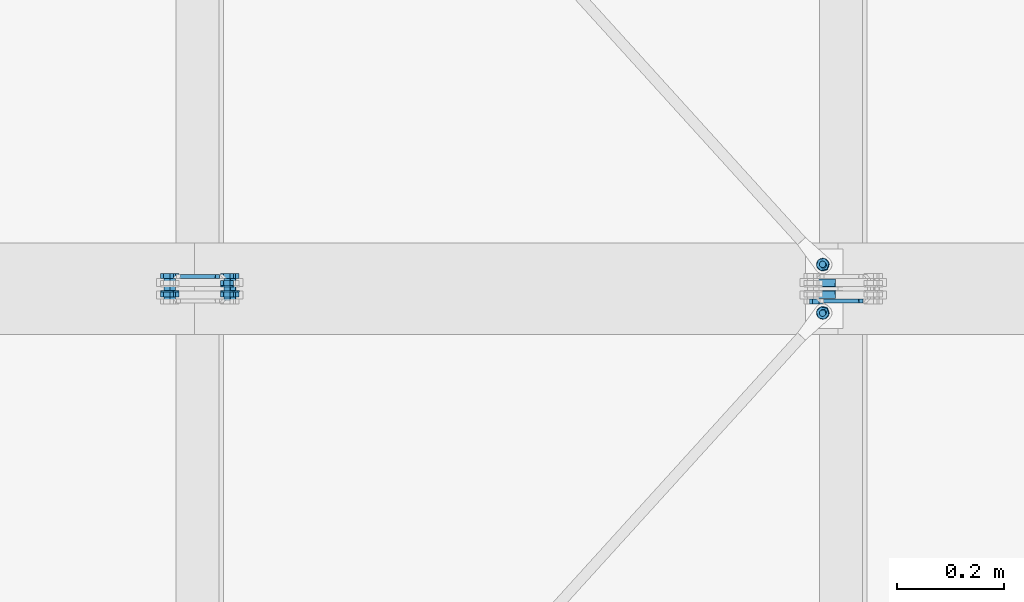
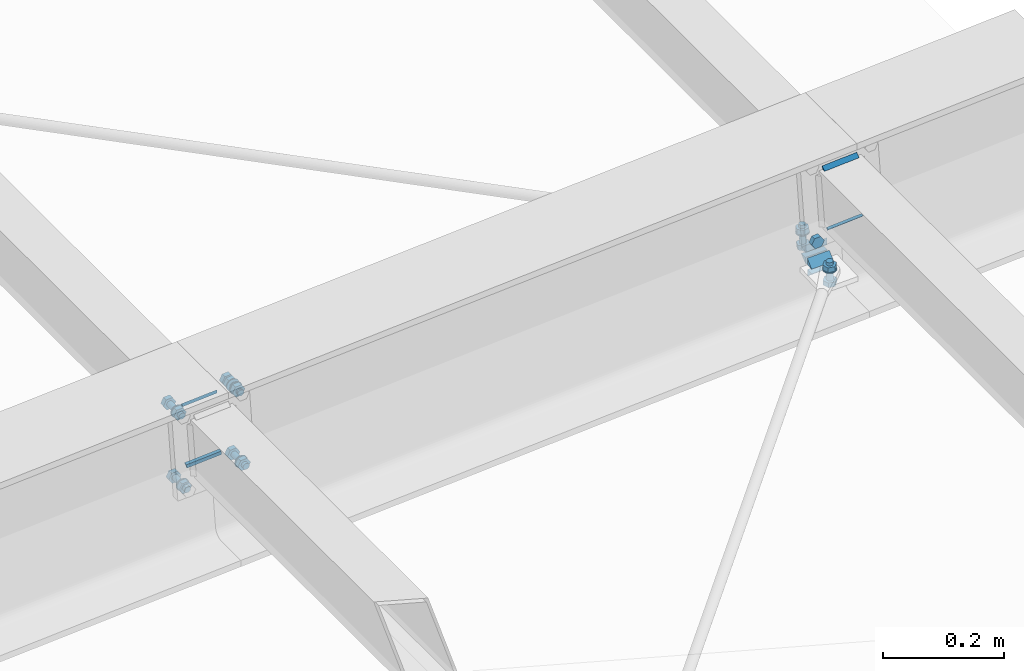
# One storey, part 41 of 72: 28 mechanical fasteners, 12 fasteners.
"""IFC4 building model written with IfcOpenShell, lengths in metres."""

import ifcopenshell
import ifcopenshell.guid

model = None  # the IFC model being written
_history = None  # IfcOwnerHistory: only IFC2X3 demands one
_inside = {}  # id of a spatial element -> (the spatial element, [elements in it])
_under = {}  # id of a project, library or spatial element -> (it, [spatial elements below it])
_declared = {}  # id of a project -> (the project, [libraries it declares])
_typed = {}  # id of a type object -> (the type object, [elements of that type])
_made_of = {}  # id of a material, layer set ... -> (it, [elements and type objects made of it])


def new_model(schema):
    """Start an empty IFC model of exactly this schema.

    Asked for "IFC4X3", IfcOpenShell would pick the latest addendum, in which some entities
    have other attributes; the version numbers below select the first issue.
    IFC2X3 requires an IfcOwnerHistory on every rooted entity: one is made here for all.
    """
    global model, _history
    if schema == "IFC4X3":
        model = ifcopenshell.file(schema_version=(4, 3, 0, 0))
    else:
        model = ifcopenshell.file(schema=schema)
    _inside.clear()
    _under.clear()
    _declared.clear()
    _typed.clear()
    _made_of.clear()
    _history = None
    if model.schema == "IFC2X3":
        org = make("IfcOrganization", Name="unknown")
        user = make(
            "IfcPersonAndOrganization",
            ThePerson=make("IfcPerson", FamilyName="unknown"),
            TheOrganization=org,
        )
        app = make(
            "IfcApplication",
            ApplicationDeveloper=org,
            Version="unknown",
            ApplicationFullName="unknown",
            ApplicationIdentifier="unknown",
        )
        _history = make(
            "IfcOwnerHistory",
            OwningUser=user,
            OwningApplication=app,
            ChangeAction="ADDED",
            CreationDate=0,
        )
    return model


def make(cls, **values):
    """One entity of the class cls with the attributes given. An attribute that is None is left unset."""
    return model.create_entity(
        cls, **{name: value for name, value in values.items() if value is not None}
    )


def rooted(cls, **values):
    """An entity with a GlobalId (a new one), such as an element, a storey or a relation."""
    return make(cls, GlobalId=ifcopenshell.guid.new(), OwnerHistory=_history, **values)


def si_unit(unit_type, name, prefix=None):
    """IfcSIUnit, for example si_unit("LENGTHUNIT", "METRE", prefix="MILLI")."""
    return make("IfcSIUnit", UnitType=unit_type, Prefix=prefix, Name=name)


def assignment(units):
    """IfcUnitAssignment: the units of a project."""
    return None if units is None else make("IfcUnitAssignment", Units=units)


def point(xyz):
    """IfcCartesianPoint."""
    return None if xyz is None else make("IfcCartesianPoint", Coordinates=xyz)


def direction(xyz):
    """IfcDirection."""
    return None if xyz is None else make("IfcDirection", DirectionRatios=xyz)


def frame(location, z_axis=None, x_axis=None):
    """IfcAxis2Placement3D, a coordinate frame: its origin and axes. An axis left out is left unset."""
    return make(
        "IfcAxis2Placement3D",
        Location=point(location),
        Axis=direction(z_axis),
        RefDirection=direction(x_axis),
    )


def origin_with_axes():
    """The frame at (0, 0, 0) with the z axis (0, 0, 1) and the x axis (1, 0, 0) written out."""
    return frame((0.0, 0.0, 0.0), z_axis=(0.0, 0.0, 1.0), x_axis=(1.0, 0.0, 0.0))


def place(relative_to, where):
    """IfcLocalPlacement: puts the frame where relative to a parent placement (None: the world)."""
    return make(
        "IfcLocalPlacement", PlacementRelTo=relative_to, RelativePlacement=where
    )


def context(
    kind, dimensions, precision=None, world=None, true_north=None, identifier=None
):
    """IfcGeometricRepresentationContext, for example the 3D "Model" context."""
    return make(
        "IfcGeometricRepresentationContext",
        ContextIdentifier=identifier,
        ContextType=kind,
        CoordinateSpaceDimension=dimensions,
        Precision=precision,
        WorldCoordinateSystem=world,
        TrueNorth=true_north,
    )


def project(units=None, contexts=None):
    """IfcProject with its units and contexts."""
    return rooted(
        "IfcProject",
        Name="project",
        RepresentationContexts=contexts,
        UnitsInContext=assignment(units),
    )


def spatial(cls, under=None, at=None, **own):
    """A site, building, storey or space (cls), placed at a placement, below another one or the project."""
    s = rooted(cls, ObjectPlacement=at, **own)
    if under is not None:
        _under.setdefault(under.id(), (under, []))[1].append(s)
    return s


def polyline(points):
    """IfcPolyline through the points."""
    return make("IfcPolyline", Points=[point(p) for p in points])


def outline(outer, holes=None, kind="AREA"):
    """IfcArbitraryClosedProfileDef: a profile drawn as a closed curve; with holes, ...WithVoids."""
    if holes is None:
        return make("IfcArbitraryClosedProfileDef", ProfileType=kind, OuterCurve=outer)
    return make(
        "IfcArbitraryProfileDefWithVoids",
        ProfileType=kind,
        OuterCurve=outer,
        InnerCurves=holes,
    )


def extrude(swept, where, along, depth):
    """IfcExtrudedAreaSolid: the profile swept, set in the frame where, extruded along a direction by depth."""
    return make(
        "IfcExtrudedAreaSolid",
        SweptArea=swept,
        Position=where,
        ExtrudedDirection=direction(along),
        Depth=depth,
    )


def shape(context_of_items, identifier, shape_type, items):
    """IfcShapeRepresentation: the items that make up one representation, for example the "Body"."""
    return make(
        "IfcShapeRepresentation",
        ContextOfItems=context_of_items,
        RepresentationIdentifier=identifier,
        RepresentationType=shape_type,
        Items=items,
    )


def made_of(thing, what):
    """Note that an element or type object is made of a material, layer set ...; save() writes the relation."""
    if what is not None:
        _made_of.setdefault(what.id(), (what, []))[1].append(thing)
    return thing


def type_object(cls, material=None, **own):
    """A type object (cls), such as IfcWallType, which elements share."""
    return made_of(rooted(cls, **own), material)


def element(
    cls,
    number,
    at=None,
    inside=None,
    cuts=None,
    type_object=None,
    material=None,
    context=None,
    identifier="Body",
    shape_type=None,
    held_by="IfcProductDefinitionShape",
    body=None,
    shapes=None,
    **own,
):
    """One element of the class cls, such as IfcWall. Its Tag is "e" and its number.

    at: its placement. inside: the storey or other place that contains it. cuts: it is an
    opening in that element (IfcRelVoidsElement). A single representation is given by context,
    identifier, shape_type and body (its items); several are given by shapes. held_by: the class
    of the entity that holds the representations. save() writes the other relations.
    """
    e = rooted(cls, Tag="e%d" % number, ObjectPlacement=at, **own)
    if body is not None:
        shapes = [shape(context, identifier, shape_type, body)]
    if shapes is not None:
        e.Representation = make(held_by, Representations=shapes)
    if inside is not None:
        _inside.setdefault(inside.id(), (inside, []))[1].append(e)
    if cuts is not None:
        rooted(
            "IfcRelVoidsElement", RelatingBuildingElement=cuts, RelatedOpeningElement=e
        )
    if type_object is not None:
        _typed.setdefault(type_object.id(), (type_object, []))[1].append(e)
    return made_of(e, material)


def aggregate(whole, parts):
    """IfcRelAggregates: a whole, such as a stair, and the parts it consists of."""
    return rooted("IfcRelAggregates", RelatingObject=whole, RelatedObjects=parts)


def save(model, path):
    """Write the relations noted so far, then the file.

    IfcRelAggregates (storeys below a building ...), IfcRelContainedInSpatialStructure (elements
    in a storey), IfcRelDefinesByType, IfcRelAssociatesMaterial and IfcRelDeclares: one each for
    every whole, place, type object, material and project.
    """
    for whole, parts in _under.values():
        aggregate(whole, parts)
    for where, things in _inside.values():
        rooted(
            "IfcRelContainedInSpatialStructure",
            RelatedElements=things,
            RelatingStructure=where,
        )
    for kind, things in _typed.values():
        rooted("IfcRelDefinesByType", RelatedObjects=things, RelatingType=kind)
    for what, things in _made_of.values():
        rooted("IfcRelAssociatesMaterial", RelatedObjects=things, RelatingMaterial=what)
    for by, libraries in _declared.values():
        rooted("IfcRelDeclares", RelatingContext=by, RelatedDefinitions=libraries)
    model.write(path)


model = new_model("IFC4")

# Units and contexts
model_context = context("Model", 3, precision=1e-05, world=origin_with_axes())
ifc_project = project(units=[si_unit("LENGTHUNIT", "METRE"), si_unit("AREAUNIT", "SQUARE_METRE"), si_unit("VOLUMEUNIT", "CUBIC_METRE"), si_unit("MASSUNIT", "GRAM", prefix="KILO"), si_unit("TIMEUNIT", "SECOND"), si_unit("PLANEANGLEUNIT", "RADIAN"), si_unit("SOLIDANGLEUNIT", "STERADIAN"), si_unit("THERMODYNAMICTEMPERATUREUNIT", "DEGREE_CELSIUS")], contexts=[model_context])

# Site, building, storey
placement_1 = place(None, origin_with_axes())
site = spatial("IfcSite", under=ifc_project, at=placement_1, Name="Italia", CompositionType="ELEMENT")
building = spatial("IfcBuilding", under=site, at=placement_1, Name="Pensilina", CompositionType="ELEMENT")
storey = spatial("IfcBuildingStorey", under=building, at=placement_1, Name="Storey 0", CompositionType="ELEMENT", Elevation=0.0)

# Mechanical fasteners
mechanical_fastener_type_1 = type_object("IfcMechanicalFastenerType", Name="Collegamento 0502_0501", PredefinedType="BOLT")
placement_2 = place(placement_1, origin_with_axes())
mechanical_fastener_1_placement = place(placement_2, origin_with_axes())
element("IfcMechanicalFastener", 1, at=mechanical_fastener_1_placement, inside=storey, type_object=mechanical_fastener_type_1, Name="Collegamento 0502_0501", NominalDiameter=0.012, context=model_context, shape_type="SweptSolid", body=[
    extrude(outline(polyline([(0.0, 0.0, 0.0), (-0.000204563, -0.00155306, 0.0), (-0.000803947, -0.00299978, 0.0), (-0.00175762, -0.00424242, 0.0), (-0.00300026, -0.00519609, 0.0), (-0.00444698, -0.00579548, 0.0), (-0.00600004, -0.00600004, 0.0), (-0.0075531, -0.00579548, 0.0), (-0.00899982, -0.00519609, 0.0), (-0.0102425, -0.00424242, 0.0), (-0.0111961, -0.00299978, 0.0), (-0.0117955, -0.00155306, 0.0), (-0.0120001, 0.0, 0.0), (-0.0117955, 0.00155306, 0.0), (-0.0111961, 0.00299978, 0.0), (-0.0102425, 0.00424242, 0.0), (-0.00899982, 0.00519609, 0.0), (-0.0075531, 0.00579548, 0.0), (-0.00600004, 0.00600004, 0.0), (-0.00444698, 0.00579548, 0.0), (-0.00300026, 0.00519609, 0.0), (-0.00175762, 0.00424242, 0.0), (-0.000803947, 0.00299978, 0.0), (-0.000204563, 0.00155306, 0.0), (0.0, 0.0, 0.0)])), frame((4.66936, 5.302, 4.02292), z_axis=(0.0, -1.0, 0.0), x_axis=(1.0, 0.0, 0.0)), (0.0, 0.0, 1.0), 0.0409999),
])
mechanical_fastener_type_2 = type_object("IfcMechanicalFastenerType", Name="Collegamento 0502_0501", PredefinedType="BOLT")
mechanical_fastener_2_placement = place(placement_2, origin_with_axes())
element("IfcMechanicalFastener", 2, at=mechanical_fastener_2_placement, inside=storey, type_object=mechanical_fastener_type_2, Name="Collegamento 0502_0501", NominalDiameter=0.012, context=model_context, shape_type="SweptSolid", body=[
    extrude(outline(polyline([(0.0, 0.0, 0.0), (-0.0119729, -0.000807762, 0.0), (-0.0186586, 0.00915718, 0.0), (-0.0133719, 0.0199299, 0.0), (-0.00139904, 0.0207376, 0.0), (0.00528669, 0.0107727, 0.0), (0.0, 0.0, 0.0)])), frame((4.67005, 5.2956, 4.01296), z_axis=(0.0, -1.0, 0.0), x_axis=(1.0, 0.0, 0.0)), (0.0, 0.0, 1.0), 0.00959969),
])
mechanical_fastener_type_3 = type_object("IfcMechanicalFastenerType", Name="Collegamento 0502_0501", PredefinedType="BOLT")
mechanical_fastener_3_placement = place(placement_2, origin_with_axes())
element("IfcMechanicalFastener", 3, at=mechanical_fastener_3_placement, inside=storey, type_object=mechanical_fastener_type_3, Name="Collegamento 0502_0501", NominalDiameter=0.024, context=model_context, shape_type="SweptSolid", body=[
    extrude(outline(polyline([(0.0, 0.0, 0.0), (-0.000409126, -0.00310564, 0.0), (-0.00160789, -0.00600004, 0.0), (-0.00351477, -0.00848532, 0.0), (-0.00600004, -0.0103922, 0.0), (-0.00889444, -0.011591, 0.0), (-0.0120001, -0.0120001, 0.0), (-0.0151057, -0.011591, 0.0), (-0.0180001, -0.0103922, 0.0), (-0.0204854, -0.00848532, 0.0), (-0.0223923, -0.00600004, 0.0), (-0.023591, -0.00310564, 0.0), (-0.0240002, 0.0, 0.0), (-0.023591, 0.00310564, 0.0), (-0.0223923, 0.00600004, 0.0), (-0.0204854, 0.00848532, 0.0), (-0.0180001, 0.0103922, 0.0), (-0.0151057, 0.011591, 0.0), (-0.0120001, 0.0120001, 0.0), (-0.00889444, 0.011591, 0.0), (-0.00600004, 0.0103922, 0.0), (-0.00351477, 0.00848532, 0.0), (-0.00160789, 0.00600004, 0.0), (-0.000409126, 0.00310564, 0.0), (0.0, 0.0, 0.0)])), frame((4.67536, 5.286, 4.02292), z_axis=(0.0, -1.0, 0.0), x_axis=(1.0, 0.0, 0.0)), (0.0, 0.0, 1.0), 0.00200033),
])

# Fasteners
fastener_type_1 = type_object("IfcFastenerType", Name="Collegamento 0502_0503", PredefinedType="WELD")
fastener_1_placement = place(placement_2, origin_with_axes())
element("IfcFastener", 4, at=fastener_1_placement, inside=storey, type_object=fastener_type_1, Name="Collegamento 0502_0503", context=model_context, shape_type="SweptSolid", body=[
    extrude(outline(polyline([(0.0, 0.0, 0.0), (0.00717354, -0.00695825, 0.0), (0.0, -0.00695825, 0.0), (0.0, 0.0, 0.0)])), frame((4.57513, 5.29895, 4.00786), z_axis=(0.997731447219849, 0.0, 0.06731953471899), x_axis=(0.0, 1.0, 0.0)), (0.0, 0.0, 1.0), 0.0661003),
])
fastener_type_2 = type_object("IfcFastenerType", Name="Collegamento 0502_0503", PredefinedType="WELD")
fastener_2_placement = place(placement_2, origin_with_axes())
element("IfcFastener", 5, at=fastener_2_placement, inside=storey, type_object=fastener_type_2, Name="Collegamento 0502_0503", context=model_context, shape_type="SweptSolid", body=[
    extrude(outline(polyline([(0.0, 0.0, 0.0), (-0.00717354, 0.00695848, 0.0), (0.0, 0.00695848, 0.0), (0.0, 0.0, 0.0)])), frame((4.65009, 5.29895, 3.8788), z_axis=(-0.997731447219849, 0.0, -0.06731953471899), x_axis=(0.0, -1.0, 0.0)), (0.0, 0.0, 1.0), 0.0661003),
])
fastener_type_3 = type_object("IfcFastenerType", Name="Collegamento 0502_0503", PredefinedType="WELD")
fastener_3_placement = place(placement_2, origin_with_axes())
element("IfcFastener", 6, at=fastener_3_placement, inside=storey, type_object=fastener_type_3, Name="Collegamento 0502_0503", context=model_context, shape_type="SweptSolid", body=[
    extrude(outline(polyline([(0.0, 0.0, 0.0), (0.00717354, -0.00695825, 0.0), (0.0, -0.00695825, 0.0), (0.0, 0.0, 0.0)])), frame((4.57513, 5.29895, 4.00786), z_axis=(0.997731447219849, 0.0, 0.06731953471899), x_axis=(0.0, 1.0, 0.0)), (0.0, 0.0, 1.0), 0.0661003),
])
fastener_type_4 = type_object("IfcFastenerType", Name="Collegamento 0502_0503", PredefinedType="WELD")
fastener_4_placement = place(placement_2, origin_with_axes())
element("IfcFastener", 7, at=fastener_4_placement, inside=storey, type_object=fastener_type_4, Name="Collegamento 0502_0503", context=model_context, shape_type="SweptSolid", body=[
    extrude(outline(polyline([(0.0, 0.0, 0.0), (-0.00717354, 0.00695848, 0.0), (0.0, 0.00695848, 0.0), (0.0, 0.0, 0.0)])), frame((4.65009, 5.29895, 3.8788), z_axis=(-0.997731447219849, 0.0, -0.06731953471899), x_axis=(0.0, -1.0, 0.0)), (0.0, 0.0, 1.0), 0.0661003),
])

# Mechanical fasteners
mechanical_fastener_type_4 = type_object("IfcMechanicalFastenerType", Name="Collegamento 0502_0503", PredefinedType="BOLT")
mechanical_fastener_4_placement = place(placement_2, origin_with_axes())
element("IfcMechanicalFastener", 8, at=mechanical_fastener_4_placement, inside=storey, type_object=mechanical_fastener_type_4, Name="Collegamento 0502_0503", NominalDiameter=0.0119998, context=model_context, shape_type="SweptSolid", body=[
    extrude(outline(polyline([(0.0, 0.0, 0.0), (-0.0119729, 0.000807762, 0.0), (-0.0172596, 0.0115805, 0.0), (-0.0105739, 0.0215454, 0.0), (0.00139904, 0.0207374, 0.0), (0.00668573, 0.00996494, 0.0), (0.0, 0.0, 0.0)])), frame((4.66831, 5.299, 3.8605), z_axis=(0.0, 1.0, 0.0), x_axis=(-1.0, 0.0, 0.0)), (0.0, 0.0, 1.0), 0.00960016),
])
mechanical_fastener_type_5 = type_object("IfcMechanicalFastenerType", Name="Collegamento 0502_0503", PredefinedType="BOLT")
mechanical_fastener_5_placement = place(placement_2, origin_with_axes())
element("IfcMechanicalFastener", 9, at=mechanical_fastener_5_placement, inside=storey, type_object=mechanical_fastener_type_5, Name="Collegamento 0502_0503", NominalDiameter=0.012, context=model_context, shape_type="SweptSolid", body=[
    extrude(outline(polyline([(0.0, 0.0, 0.0), (-0.000204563, -0.00155282, 0.0), (-0.000803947, -0.00300002, 0.0), (-0.00175762, -0.00424266, 0.0), (-0.00300026, -0.00519609, 0.0), (-0.00444698, -0.00579548, 0.0), (-0.00600004, -0.00600004, 0.0), (-0.0075531, -0.00579548, 0.0), (-0.00899982, -0.00519609, 0.0), (-0.0102425, -0.00424266, 0.0), (-0.0111961, -0.00300002, 0.0), (-0.0117955, -0.00155282, 0.0), (-0.0120001, 0.0, 0.0), (-0.0117955, 0.00155282, 0.0), (-0.0111961, 0.00300002, 0.0), (-0.0102425, 0.00424266, 0.0), (-0.00899982, 0.00519609, 0.0), (-0.0075531, 0.00579548, 0.0), (-0.00600004, 0.00600004, 0.0), (-0.00444698, 0.00579548, 0.0), (-0.00300026, 0.00519609, 0.0), (-0.00175762, 0.00424266, 0.0), (-0.000803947, 0.00300002, 0.0), (-0.000204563, 0.00155282, 0.0), (0.0, 0.0, 0.0)])), frame((4.6676, 5.258, 3.87127), z_axis=(0.0, 1.0, 0.0), x_axis=(-1.0, 0.0, 0.0)), (0.0, 0.0, 1.0), 0.0409999),
])
mechanical_fastener_type_6 = type_object("IfcMechanicalFastenerType", Name="Collegamento 0502_0503", PredefinedType="BOLT")
mechanical_fastener_6_placement = place(placement_2, origin_with_axes())
element("IfcMechanicalFastener", 10, at=mechanical_fastener_6_placement, inside=storey, type_object=mechanical_fastener_type_6, Name="Collegamento 0502_0503", NominalDiameter=0.0119998, context=model_context, shape_type="SweptSolid", body=[
    extrude(outline(polyline([(0.0, 0.0, 0.0), (-0.0119729, 0.000807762, 0.0), (-0.0172596, 0.0115805, 0.0), (-0.0105739, 0.0215454, 0.0), (0.00139904, 0.0207374, 0.0), (0.00668573, 0.00996494, 0.0), (0.0, 0.0, 0.0)])), frame((4.66831, 5.2644, 3.8605), z_axis=(0.0, 1.0, 0.0), x_axis=(-1.0, 0.0, 0.0)), (0.0, 0.0, 1.0), 0.00959969),
])
mechanical_fastener_type_7 = type_object("IfcMechanicalFastenerType", Name="Collegamento 0502_0503", PredefinedType="BOLT")
mechanical_fastener_7_placement = place(placement_2, origin_with_axes())
element("IfcMechanicalFastener", 11, at=mechanical_fastener_7_placement, inside=storey, type_object=mechanical_fastener_type_7, Name="Collegamento 0502_0503", NominalDiameter=0.024, context=model_context, shape_type="SweptSolid", body=[
    extrude(outline(polyline([(0.0, 0.0, 0.0), (-0.000409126, -0.00310588, 0.0), (-0.00160789, -0.00600004, 0.0), (-0.00351477, -0.00848532, 0.0), (-0.00600004, -0.0103922, 0.0), (-0.00889444, -0.0115912, 0.0), (-0.0120001, -0.0120001, 0.0), (-0.0151057, -0.0115912, 0.0), (-0.0180001, -0.0103922, 0.0), (-0.0204854, -0.00848532, 0.0), (-0.0223923, -0.00600004, 0.0), (-0.023591, -0.00310588, 0.0), (-0.0240002, 0.0, 0.0), (-0.023591, 0.00310588, 0.0), (-0.0223923, 0.00600004, 0.0), (-0.0204854, 0.00848532, 0.0), (-0.0180001, 0.0103922, 0.0), (-0.0151057, 0.0115912, 0.0), (-0.0120001, 0.0120001, 0.0), (-0.00889444, 0.0115912, 0.0), (-0.00600004, 0.0103922, 0.0), (-0.00351477, 0.00848532, 0.0), (-0.00160789, 0.00600004, 0.0), (-0.000409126, 0.00310588, 0.0), (0.0, 0.0, 0.0)])), frame((4.6616, 5.274, 3.87127), z_axis=(0.0, 1.0, 0.0), x_axis=(-1.0, 0.0, 0.0)), (0.0, 0.0, 1.0), 0.00200033),
])
mechanical_fastener_type_8 = type_object("IfcMechanicalFastenerType", Name="Collegamento 0502_0503", PredefinedType="BOLT")
mechanical_fastener_8_placement = place(placement_2, origin_with_axes())
element("IfcMechanicalFastener", 12, at=mechanical_fastener_8_placement, inside=storey, type_object=mechanical_fastener_type_8, Name="Collegamento 0502_0503", NominalDiameter=0.0119998, context=model_context, shape_type="SweptSolid", body=[
    extrude(outline(polyline([(0.0, 0.0, 0.0), (-0.0119729, 0.000808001, 0.0), (-0.0172596, 0.0115805, 0.0), (-0.0105739, 0.0215454, 0.0), (0.00139904, 0.0207376, 0.0), (0.00668573, 0.00996494, 0.0), (0.0, 0.0, 0.0)])), frame((4.55656, 5.299, 3.85296), z_axis=(0.0, 1.0, 0.0), x_axis=(-1.0, 0.0, 0.0)), (0.0, 0.0, 1.0), 0.00960016),
])
mechanical_fastener_type_9 = type_object("IfcMechanicalFastenerType", Name="Collegamento 0502_0503", PredefinedType="BOLT")
mechanical_fastener_9_placement = place(placement_2, origin_with_axes())
element("IfcMechanicalFastener", 13, at=mechanical_fastener_9_placement, inside=storey, type_object=mechanical_fastener_type_9, Name="Collegamento 0502_0503", NominalDiameter=0.012, context=model_context, shape_type="SweptSolid", body=[
    extrude(outline(polyline([(0.0, 0.0, 0.0), (-0.000204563, -0.00155282, 0.0), (-0.000803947, -0.00300002, 0.0), (-0.00175762, -0.00424266, 0.0), (-0.00300026, -0.00519609, 0.0), (-0.00444698, -0.00579548, 0.0), (-0.00600004, -0.00600004, 0.0), (-0.0075531, -0.00579548, 0.0), (-0.00899982, -0.00519609, 0.0), (-0.0102425, -0.00424266, 0.0), (-0.0111961, -0.00300002, 0.0), (-0.0117955, -0.00155282, 0.0), (-0.0120001, 0.0, 0.0), (-0.0117955, 0.00155282, 0.0), (-0.0111961, 0.00300002, 0.0), (-0.0102425, 0.00424266, 0.0), (-0.00899982, 0.00519609, 0.0), (-0.0075531, 0.00579548, 0.0), (-0.00600004, 0.00600004, 0.0), (-0.00444698, 0.00579548, 0.0), (-0.00300026, 0.00519609, 0.0), (-0.00175762, 0.00424266, 0.0), (-0.000803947, 0.00300002, 0.0), (-0.000204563, 0.00155282, 0.0), (0.0, 0.0, 0.0)])), frame((4.55585, 5.258, 3.86373), z_axis=(0.0, 1.0, 0.0), x_axis=(-1.0, 0.0, 0.0)), (0.0, 0.0, 1.0), 0.0409999),
])
mechanical_fastener_type_10 = type_object("IfcMechanicalFastenerType", Name="Collegamento 0502_0503", PredefinedType="BOLT")
mechanical_fastener_10_placement = place(placement_2, origin_with_axes())
element("IfcMechanicalFastener", 14, at=mechanical_fastener_10_placement, inside=storey, type_object=mechanical_fastener_type_10, Name="Collegamento 0502_0503", NominalDiameter=0.0119998, context=model_context, shape_type="SweptSolid", body=[
    extrude(outline(polyline([(0.0, 0.0, 0.0), (-0.0119729, 0.000808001, 0.0), (-0.0172596, 0.0115805, 0.0), (-0.0105739, 0.0215454, 0.0), (0.00139904, 0.0207376, 0.0), (0.00668573, 0.00996494, 0.0), (0.0, 0.0, 0.0)])), frame((4.55656, 5.2644, 3.85296), z_axis=(0.0, 1.0, 0.0), x_axis=(-1.0, 0.0, 0.0)), (0.0, 0.0, 1.0), 0.00959969),
])
mechanical_fastener_type_11 = type_object("IfcMechanicalFastenerType", Name="Collegamento 0502_0503", PredefinedType="BOLT")
mechanical_fastener_11_placement = place(placement_2, origin_with_axes())
element("IfcMechanicalFastener", 15, at=mechanical_fastener_11_placement, inside=storey, type_object=mechanical_fastener_type_11, Name="Collegamento 0502_0503", NominalDiameter=0.024, context=model_context, shape_type="SweptSolid", body=[
    extrude(outline(polyline([(0.0, 0.0, 0.0), (-0.000409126, -0.00310588, 0.0), (-0.00160789, -0.00600004, 0.0), (-0.00351477, -0.00848532, 0.0), (-0.00600004, -0.0103922, 0.0), (-0.00889444, -0.0115912, 0.0), (-0.0120001, -0.0120001, 0.0), (-0.0151057, -0.0115912, 0.0), (-0.0180001, -0.0103922, 0.0), (-0.0204854, -0.00848532, 0.0), (-0.0223923, -0.00600004, 0.0), (-0.023591, -0.00310588, 0.0), (-0.0240002, 0.0, 0.0), (-0.023591, 0.00310588, 0.0), (-0.0223923, 0.00600004, 0.0), (-0.0204854, 0.00848532, 0.0), (-0.0180001, 0.0103922, 0.0), (-0.0151057, 0.0115912, 0.0), (-0.0120001, 0.0120001, 0.0), (-0.00889444, 0.0115912, 0.0), (-0.00600004, 0.0103922, 0.0), (-0.00351477, 0.00848532, 0.0), (-0.00160789, 0.00600004, 0.0), (-0.000409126, 0.00310588, 0.0), (0.0, 0.0, 0.0)])), frame((4.54985, 5.274, 3.86373), z_axis=(0.0, 1.0, 0.0), x_axis=(-1.0, 0.0, 0.0)), (0.0, 0.0, 1.0), 0.00200033),
])
mechanical_fastener_type_12 = type_object("IfcMechanicalFastenerType", Name="Collegamento 0502_0503", PredefinedType="BOLT")
mechanical_fastener_12_placement = place(placement_2, origin_with_axes())
element("IfcMechanicalFastener", 16, at=mechanical_fastener_12_placement, inside=storey, type_object=mechanical_fastener_type_12, Name="Collegamento 0502_0503", NominalDiameter=0.012, context=model_context, shape_type="SweptSolid", body=[
    extrude(outline(polyline([(0.0, 0.0, 0.0), (-0.0119729, 0.000807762, 0.0), (-0.0172596, 0.0115805, 0.0), (-0.0105739, 0.0215454, 0.0), (0.00139904, 0.0207376, 0.0), (0.00668573, 0.00996494, 0.0), (0.0, 0.0, 0.0)])), frame((4.65808, 5.299, 4.01215), z_axis=(0.0, 1.0, 0.0), x_axis=(-1.0, 0.0, 0.0)), (0.0, 0.0, 1.0), 0.00960016),
])
mechanical_fastener_type_13 = type_object("IfcMechanicalFastenerType", Name="Collegamento 0502_0503", PredefinedType="BOLT")
mechanical_fastener_13_placement = place(placement_2, origin_with_axes())
element("IfcMechanicalFastener", 17, at=mechanical_fastener_13_placement, inside=storey, type_object=mechanical_fastener_type_13, Name="Collegamento 0502_0503", NominalDiameter=0.012, context=model_context, shape_type="SweptSolid", body=[
    extrude(outline(polyline([(0.0, 0.0, 0.0), (-0.000204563, -0.00155306, 0.0), (-0.000803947, -0.00299978, 0.0), (-0.00175762, -0.00424242, 0.0), (-0.00300026, -0.00519609, 0.0), (-0.00444698, -0.00579548, 0.0), (-0.00600004, -0.00600004, 0.0), (-0.0075531, -0.00579548, 0.0), (-0.00899982, -0.00519609, 0.0), (-0.0102425, -0.00424242, 0.0), (-0.0111961, -0.00299978, 0.0), (-0.0117955, -0.00155306, 0.0), (-0.0120001, 0.0, 0.0), (-0.0117955, 0.00155306, 0.0), (-0.0111961, 0.00299978, 0.0), (-0.0102425, 0.00424242, 0.0), (-0.00899982, 0.00519609, 0.0), (-0.0075531, 0.00579548, 0.0), (-0.00600004, 0.00600004, 0.0), (-0.00444698, 0.00579548, 0.0), (-0.00300026, 0.00519609, 0.0), (-0.00175762, 0.00424242, 0.0), (-0.000803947, 0.00299978, 0.0), (-0.000204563, 0.00155306, 0.0), (0.0, 0.0, 0.0)])), frame((4.65736, 5.258, 4.02292), z_axis=(0.0, 1.0, 0.0), x_axis=(-1.0, 0.0, 0.0)), (0.0, 0.0, 1.0), 0.0409999),
])
mechanical_fastener_type_14 = type_object("IfcMechanicalFastenerType", Name="Collegamento 0502_0503", PredefinedType="BOLT")
mechanical_fastener_14_placement = place(placement_2, origin_with_axes())
element("IfcMechanicalFastener", 18, at=mechanical_fastener_14_placement, inside=storey, type_object=mechanical_fastener_type_14, Name="Collegamento 0502_0503", NominalDiameter=0.012, context=model_context, shape_type="SweptSolid", body=[
    extrude(outline(polyline([(0.0, 0.0, 0.0), (-0.0119729, 0.000807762, 0.0), (-0.0172596, 0.0115805, 0.0), (-0.0105739, 0.0215454, 0.0), (0.00139904, 0.0207376, 0.0), (0.00668573, 0.00996494, 0.0), (0.0, 0.0, 0.0)])), frame((4.65808, 5.2644, 4.01215), z_axis=(0.0, 1.0, 0.0), x_axis=(-1.0, 0.0, 0.0)), (0.0, 0.0, 1.0), 0.00959969),
])
mechanical_fastener_type_15 = type_object("IfcMechanicalFastenerType", Name="Collegamento 0502_0503", PredefinedType="BOLT")
mechanical_fastener_15_placement = place(placement_2, origin_with_axes())
element("IfcMechanicalFastener", 19, at=mechanical_fastener_15_placement, inside=storey, type_object=mechanical_fastener_type_15, Name="Collegamento 0502_0503", NominalDiameter=0.024, context=model_context, shape_type="SweptSolid", body=[
    extrude(outline(polyline([(0.0, 0.0, 0.0), (-0.000409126, -0.00310564, 0.0), (-0.00160789, -0.00600004, 0.0), (-0.00351477, -0.00848532, 0.0), (-0.00600004, -0.0103922, 0.0), (-0.00889444, -0.011591, 0.0), (-0.0120001, -0.0120001, 0.0), (-0.0151057, -0.011591, 0.0), (-0.0180001, -0.0103922, 0.0), (-0.0204854, -0.00848532, 0.0), (-0.0223923, -0.00600004, 0.0), (-0.023591, -0.00310564, 0.0), (-0.0240002, 0.0, 0.0), (-0.023591, 0.00310564, 0.0), (-0.0223923, 0.00600004, 0.0), (-0.0204854, 0.00848532, 0.0), (-0.0180001, 0.0103922, 0.0), (-0.0151057, 0.011591, 0.0), (-0.0120001, 0.0120001, 0.0), (-0.00889444, 0.011591, 0.0), (-0.00600004, 0.0103922, 0.0), (-0.00351477, 0.00848532, 0.0), (-0.00160789, 0.00600004, 0.0), (-0.000409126, 0.00310564, 0.0), (0.0, 0.0, 0.0)])), frame((4.65136, 5.274, 4.02292), z_axis=(0.0, 1.0, 0.0), x_axis=(-1.0, 0.0, 0.0)), (0.0, 0.0, 1.0), 0.00200033),
])
mechanical_fastener_type_16 = type_object("IfcMechanicalFastenerType", Name="Collegamento 0502_0503", PredefinedType="BOLT")
mechanical_fastener_16_placement = place(placement_2, origin_with_axes())
element("IfcMechanicalFastener", 20, at=mechanical_fastener_16_placement, inside=storey, type_object=mechanical_fastener_type_16, Name="Collegamento 0502_0503", NominalDiameter=0.012, context=model_context, shape_type="SweptSolid", body=[
    extrude(outline(polyline([(0.0, 0.0, 0.0), (-0.0119729, 0.000807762, 0.0), (-0.0172596, 0.0115805, 0.0), (-0.0105739, 0.0215454, 0.0), (0.00139904, 0.0207376, 0.0), (0.00668573, 0.00996494, 0.0), (0.0, 0.0, 0.0)])), frame((4.54633, 5.299, 4.00461), z_axis=(0.0, 1.0, 0.0), x_axis=(-1.0, 0.0, 0.0)), (0.0, 0.0, 1.0), 0.00960016),
])
mechanical_fastener_type_17 = type_object("IfcMechanicalFastenerType", Name="Collegamento 0502_0503", PredefinedType="BOLT")
mechanical_fastener_17_placement = place(placement_2, origin_with_axes())
element("IfcMechanicalFastener", 21, at=mechanical_fastener_17_placement, inside=storey, type_object=mechanical_fastener_type_17, Name="Collegamento 0502_0503", NominalDiameter=0.012, context=model_context, shape_type="SweptSolid", body=[
    extrude(outline(polyline([(0.0, 0.0, 0.0), (-0.000204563, -0.00155306, 0.0), (-0.000803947, -0.00299978, 0.0), (-0.00175762, -0.00424242, 0.0), (-0.00300026, -0.00519609, 0.0), (-0.00444698, -0.00579548, 0.0), (-0.00600004, -0.00600004, 0.0), (-0.0075531, -0.00579548, 0.0), (-0.00899982, -0.00519609, 0.0), (-0.0102425, -0.00424242, 0.0), (-0.0111961, -0.00299978, 0.0), (-0.0117955, -0.00155306, 0.0), (-0.0120001, 0.0, 0.0), (-0.0117955, 0.00155306, 0.0), (-0.0111961, 0.00299978, 0.0), (-0.0102425, 0.00424242, 0.0), (-0.00899982, 0.00519609, 0.0), (-0.0075531, 0.00579548, 0.0), (-0.00600004, 0.00600004, 0.0), (-0.00444698, 0.00579548, 0.0), (-0.00300026, 0.00519609, 0.0), (-0.00175762, 0.00424242, 0.0), (-0.000803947, 0.00299978, 0.0), (-0.000204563, 0.00155306, 0.0), (0.0, 0.0, 0.0)])), frame((4.54562, 5.258, 4.01539), z_axis=(0.0, 1.0, 0.0), x_axis=(-1.0, 0.0, 0.0)), (0.0, 0.0, 1.0), 0.0409999),
])
mechanical_fastener_type_18 = type_object("IfcMechanicalFastenerType", Name="Collegamento 0502_0503", PredefinedType="BOLT")
mechanical_fastener_18_placement = place(placement_2, origin_with_axes())
element("IfcMechanicalFastener", 22, at=mechanical_fastener_18_placement, inside=storey, type_object=mechanical_fastener_type_18, Name="Collegamento 0502_0503", NominalDiameter=0.012, context=model_context, shape_type="SweptSolid", body=[
    extrude(outline(polyline([(0.0, 0.0, 0.0), (-0.0119729, 0.000807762, 0.0), (-0.0172596, 0.0115805, 0.0), (-0.0105739, 0.0215454, 0.0), (0.00139904, 0.0207376, 0.0), (0.00668573, 0.00996494, 0.0), (0.0, 0.0, 0.0)])), frame((4.54633, 5.2644, 4.00461), z_axis=(0.0, 1.0, 0.0), x_axis=(-1.0, 0.0, 0.0)), (0.0, 0.0, 1.0), 0.00959969),
])
mechanical_fastener_type_19 = type_object("IfcMechanicalFastenerType", Name="Collegamento 0502_0503", PredefinedType="BOLT")
mechanical_fastener_19_placement = place(placement_2, origin_with_axes())
element("IfcMechanicalFastener", 23, at=mechanical_fastener_19_placement, inside=storey, type_object=mechanical_fastener_type_19, Name="Collegamento 0502_0503", NominalDiameter=0.024, context=model_context, shape_type="SweptSolid", body=[
    extrude(outline(polyline([(0.0, 0.0, 0.0), (-0.000409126, -0.00310564, 0.0), (-0.00160789, -0.00600004, 0.0), (-0.00351477, -0.00848532, 0.0), (-0.00600004, -0.0103922, 0.0), (-0.00889444, -0.011591, 0.0), (-0.0120001, -0.0120001, 0.0), (-0.0151057, -0.011591, 0.0), (-0.0180001, -0.0103922, 0.0), (-0.0204854, -0.00848532, 0.0), (-0.0223923, -0.00600004, 0.0), (-0.023591, -0.00310564, 0.0), (-0.0240002, 0.0, 0.0), (-0.023591, 0.00310564, 0.0), (-0.0223923, 0.00600004, 0.0), (-0.0204854, 0.00848532, 0.0), (-0.0180001, 0.0103922, 0.0), (-0.0151057, 0.011591, 0.0), (-0.0120001, 0.0120001, 0.0), (-0.00889444, 0.011591, 0.0), (-0.00600004, 0.0103922, 0.0), (-0.00351477, 0.00848532, 0.0), (-0.00160789, 0.00600004, 0.0), (-0.000409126, 0.00310564, 0.0), (0.0, 0.0, 0.0)])), frame((4.53962, 5.274, 4.01539), z_axis=(0.0, 1.0, 0.0), x_axis=(-1.0, 0.0, 0.0)), (0.0, 0.0, 1.0), 0.00200033),
])
mechanical_fastener_type_20 = type_object("IfcMechanicalFastenerType", Name="Collegamento 0602_0201", PredefinedType="BOLT")
mechanical_fastener_20_placement = place(placement_2, origin_with_axes())
element("IfcMechanicalFastener", 24, at=mechanical_fastener_20_placement, inside=storey, type_object=mechanical_fastener_type_20, Name="Collegamento 0602_0201", NominalDiameter=0.0119996, context=model_context, shape_type="SweptSolid", body=[
    extrude(outline(polyline([(0.0, 0.0, 0.0), (0.0, 0.0120001, 0.0), (-0.0103924, 0.0180001, 0.0), (-0.0207846, 0.0120001, 0.0), (-0.0207846, 0.0, 0.0), (-0.0103926, -0.00599957, 0.0), (0.0, 0.0, 0.0)])), frame((5.76071, 5.23836, 3.87753), z_axis=(0.030994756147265, 0.034173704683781, -0.998935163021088), x_axis=(-0.740719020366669, 0.671814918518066, 0.0)), (0.0, 0.0, 1.0), 0.00959989),
])
mechanical_fastener_type_21 = type_object("IfcMechanicalFastenerType", Name="Collegamento 0602_0201", PredefinedType="BOLT")
mechanical_fastener_21_placement = place(placement_2, origin_with_axes())
element("IfcMechanicalFastener", 25, at=mechanical_fastener_21_placement, inside=storey, type_object=mechanical_fastener_type_21, Name="Collegamento 0602_0201", NominalDiameter=0.012, context=model_context, shape_type="SweptSolid", body=[
    extrude(outline(polyline([(0.0, 0.0, 0.0), (-0.000204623, -0.00155258, 0.0), (-0.000803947, -0.00299978, 0.0), (-0.00175726, -0.0042429, 0.0), (-0.0029999, -0.00519609, 0.0), (-0.00444716, -0.00579548, 0.0), (-0.00600016, -0.00600004, 0.0), (-0.00755286, -0.00579548, 0.0), (-0.009, -0.00519609, 0.0), (-0.0102426, -0.0042429, 0.0), (-0.011196, -0.00299978, 0.0), (-0.0117957, -0.00155306, 0.0), (-0.0120003, 0.0, 0.0), (-0.0117956, 0.00155258, 0.0), (-0.0111963, 0.00299978, 0.0), (-0.0102429, 0.0042429, 0.0), (-0.00900036, 0.00519609, 0.0), (-0.0075531, 0.00579548, 0.0), (-0.0060001, 0.00600004, 0.0), (-0.0044474, 0.00579548, 0.0), (-0.00300026, 0.00519609, 0.0), (-0.00175756, 0.0042429, 0.0), (-0.000804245, 0.00299978, 0.0), (-0.000204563, 0.00155306, 0.0), (0.0, 0.0, 0.0)])), frame((5.76681, 5.23855, 3.91576), z_axis=(0.030969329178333, 0.034156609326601, -0.998936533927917), x_axis=(-0.74082612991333, 0.671696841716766, 0.0)), (0.0, 0.0, 1.0), 0.038),
])
mechanical_fastener_type_22 = type_object("IfcMechanicalFastenerType", Name="Collegamento 0602_0201", PredefinedType="BOLT")
mechanical_fastener_22_placement = place(placement_2, origin_with_axes())
element("IfcMechanicalFastener", 26, at=mechanical_fastener_22_placement, inside=storey, type_object=mechanical_fastener_type_22, Name="Collegamento 0602_0201", NominalDiameter=0.0119998, context=model_context, shape_type="SweptSolid", body=[
    extrude(outline(polyline([(0.0, 0.0, 0.0), (-9.29832e-06, 0.0119996, 0.0), (-0.0104064, 0.0179915, 0.0), (-0.0207939, 0.0119829, 0.0), (-0.0207846, -1.66893e-05, 0.0), (-0.0103875, -0.00600863, 0.0), (0.0, 0.0, 0.0)])), frame((5.75973, 5.23728, 3.90909), z_axis=(0.030945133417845, 0.034173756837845, -0.998936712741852), x_axis=(-0.741254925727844, 0.671223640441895, 0.0)), (0.0, 0.0, 1.0), 0.00959988),
])
mechanical_fastener_type_23 = type_object("IfcMechanicalFastenerType", Name="Collegamento 0602_0201", PredefinedType="BOLT")
mechanical_fastener_23_placement = place(placement_2, origin_with_axes())
element("IfcMechanicalFastener", 27, at=mechanical_fastener_23_placement, inside=storey, type_object=mechanical_fastener_type_23, Name="Collegamento 0602_0201", NominalDiameter=0.024, context=model_context, shape_type="SweptSolid", body=[
    extrude(outline(polyline([(0.0, 0.0, 0.0), (-0.000408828, -0.00310612, 0.0), (-0.00160754, -0.00600052, 0.0), (-0.00351483, -0.00848532, 0.0), (-0.00600004, -0.0103927, 0.0), (-0.00889426, -0.0115914, 0.0), (-0.0120001, -0.0120001, 0.0), (-0.0151058, -0.0115914, 0.0), (-0.0180001, -0.0103927, 0.0), (-0.0204851, -0.00848579, 0.0), (-0.0223926, -0.00600004, 0.0), (-0.0235909, -0.00310612, 0.0), (-0.024, -4.76837e-07, 0.0), (-0.0235912, 0.00310564, 0.0), (-0.0223925, 0.00600004, 0.0), (-0.0204852, 0.00848484, 0.0), (-0.0179999, 0.0103922, 0.0), (-0.0151057, 0.011591, 0.0), (-0.0119998, 0.0120001, 0.0), (-0.00889426, 0.011591, 0.0), (-0.00599992, 0.0103922, 0.0), (-0.00351489, 0.00848532, 0.0), (-0.00160736, 0.00599957, 0.0), (-0.000409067, 0.00310564, 0.0), (0.0, 0.0, 0.0)])), frame((5.76287, 5.24313, 3.89978), z_axis=(0.030755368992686, 0.033854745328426, -0.998953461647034), x_axis=(-0.740175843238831, 0.672413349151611, 0.0)), (0.0, 0.0, 1.0), 0.00200004),
])

# Fasteners
fastener_type_5 = type_object("IfcFastenerType", Name="Collegamento 0602_0201", PredefinedType="WELD")
fastener_5_placement = place(placement_2, origin_with_axes())
element("IfcFastener", 28, at=fastener_5_placement, inside=storey, type_object=fastener_type_5, Name="Collegamento 0602_0201", context=model_context, shape_type="SweptSolid", body=[
    extrude(outline(polyline([(0.0, 0.0, 0.0), (0.0136957, -0.0142243, 0.0), (-0.000469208, -0.0137401, 0.0), (0.0, 0.0, 0.0)])), frame((5.79466, 5.27575, 3.90358), z_axis=(-0.9995197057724, 0.0, -0.030989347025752), x_axis=(0.0, -1.0, 0.0)), (0.0, 0.0, 1.0), 0.0420992),
])
fastener_type_6 = type_object("IfcFastenerType", Name="Collegamento 0602_0201", PredefinedType="WELD")
fastener_6_placement = place(placement_2, origin_with_axes())
element("IfcFastener", 29, at=fastener_6_placement, inside=storey, type_object=fastener_type_6, Name="Collegamento 0602_0201", context=model_context, shape_type="SweptSolid", body=[
    extrude(outline(polyline([(0.0, 0.0, 0.0), (-0.0146346, 0.0132561, 0.0), (-0.000469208, 0.0137403, 0.0), (0.0, 0.0, 0.0)])), frame((5.75374, 5.27703, 3.86492), z_axis=(0.9995197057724, 0.0, 0.030988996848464), x_axis=(0.0, 1.0, 0.0)), (0.0, 0.0, 1.0), 0.0420997),
])

# Mechanical fasteners
mechanical_fastener_type_24 = type_object("IfcMechanicalFastenerType", Name="Collegamento 0602_0203", PredefinedType="BOLT")
mechanical_fastener_24_placement = place(placement_2, origin_with_axes())
element("IfcMechanicalFastener", 30, at=mechanical_fastener_24_placement, inside=storey, type_object=mechanical_fastener_type_24, Name="Collegamento 0602_0203", NominalDiameter=0.0119998, context=model_context, shape_type="SweptSolid", body=[
    extrude(outline(polyline([(0.0, 0.0, 0.0), (4.76837e-07, 0.0119998, 0.0), (-0.0103912, 0.0180005, 0.0), (-0.0207839, 0.0120011, 0.0), (-0.0207849, 1.02818e-06, 0.0), (-0.0103927, -0.00599936, 0.0), (0.0, 0.0, 0.0)])), frame((5.7761, 5.33561, 3.89755), z_axis=(0.030945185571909, -0.03412414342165, -0.998938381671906), x_axis=(0.740768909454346, 0.671759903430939, 0.0)), (0.0, 0.0, 1.0), 0.00959986),
])
mechanical_fastener_type_25 = type_object("IfcMechanicalFastenerType", Name="Collegamento 0602_0203", PredefinedType="BOLT")
mechanical_fastener_25_placement = place(placement_2, origin_with_axes())
element("IfcMechanicalFastener", 31, at=mechanical_fastener_25_placement, inside=storey, type_object=mechanical_fastener_type_25, Name="Collegamento 0602_0203", NominalDiameter=0.012, context=model_context, shape_type="SweptSolid", body=[
    extrude(outline(polyline([(0.0, 0.0, 0.0), (-0.000204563, -0.00155294, 0.0), (-0.000804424, -0.00300001, 0.0), (-0.00175762, -0.00424287, 0.0), (-0.00300026, -0.00519615, 0.0), (-0.00444746, -0.00579572, 0.0), (-0.00600004, -0.00600013, 0.0), (-0.0075531, -0.00579564, 0.0), (-0.0090003, -0.00519619, 0.0), (-0.0102429, -0.00424282, 0.0), (-0.0111961, -0.00299981, 0.0), (-0.0117955, -0.0015528, 0.0), (-0.0120001, 0.0, 0.0), (-0.0117955, 0.00155284, 0.0), (-0.0111961, 0.00299992, 0.0), (-0.0102425, 0.00424278, 0.0), (-0.00899982, 0.00519605, 0.0), (-0.00755262, 0.00579562, 0.0), (-0.00600004, 0.00600003, 0.0), (-0.00444698, 0.00579554, 0.0), (-0.00299978, 0.00519609, 0.0), (-0.00175714, 0.00424272, 0.0), (-0.000803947, 0.00299972, 0.0), (-0.000204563, 0.00155271, 0.0), (0.0, 0.0, 0.0)])), frame((5.77569, 5.32951, 3.93578), z_axis=(0.030969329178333, -0.034156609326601, -0.998936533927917), x_axis=(0.74082612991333, 0.671696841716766, 0.0)), (0.0, 0.0, 1.0), 0.038),
])
mechanical_fastener_type_26 = type_object("IfcMechanicalFastenerType", Name="Collegamento 0602_0203", PredefinedType="BOLT")
mechanical_fastener_26_placement = place(placement_2, origin_with_axes())
element("IfcMechanicalFastener", 32, at=mechanical_fastener_26_placement, inside=storey, type_object=mechanical_fastener_type_26, Name="Collegamento 0602_0203", NominalDiameter=0.0119998, context=model_context, shape_type="SweptSolid", body=[
    extrude(outline(polyline([(0.0, 0.0, 0.0), (9.53674e-06, 0.0120004, 0.0), (-0.0103784, 0.0180083, 0.0), (-0.0207753, 0.0120165, 0.0), (-0.0207849, 1.67266e-05, 0.0), (-0.010397, -0.00599184, 0.0), (0.0, 0.0, 0.0)])), frame((5.77512, 5.33669, 3.92911), z_axis=(0.030945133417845, -0.034173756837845, -0.998936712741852), x_axis=(0.741254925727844, 0.671223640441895, 0.0)), (0.0, 0.0, 1.0), 0.00959988),
])
mechanical_fastener_type_27 = type_object("IfcMechanicalFastenerType", Name="Collegamento 0602_0203", PredefinedType="BOLT")
mechanical_fastener_27_placement = place(placement_2, origin_with_axes())
element("IfcMechanicalFastener", 33, at=mechanical_fastener_27_placement, inside=storey, type_object=mechanical_fastener_type_27, Name="Collegamento 0602_0203", NominalDiameter=0.024, context=model_context, shape_type="SweptSolid", body=[
    extrude(outline(polyline([(0.0, 0.0, 0.0), (-0.000409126, -0.00310604, 0.0), (-0.00160837, -0.00599997, 0.0), (-0.00351477, -0.00848525, 0.0), (-0.00600004, -0.0103924, 0.0), (-0.00889444, -0.0115912, 0.0), (-0.0120006, -0.0120001, 0.0), (-0.0151062, -0.0115909, 0.0), (-0.0180006, -0.0103924, 0.0), (-0.0204854, -0.00848514, 0.0), (-0.0223923, -0.00600014, 0.0), (-0.0235915, -0.00310556, 0.0), (-0.0240006, 0.0, 0.0), (-0.0235915, 0.00310612, 0.0), (-0.0223923, 0.00600005, 0.0), (-0.0204859, 0.00848533, 0.0), (-0.0180006, 0.0103925, 0.0), (-0.0151062, 0.0115913, 0.0), (-0.0120001, 0.0120002, 0.0), (-0.00889444, 0.0115909, 0.0), (-0.00600004, 0.0103924, 0.0), (-0.00351524, 0.00848522, 0.0), (-0.00160837, 0.00600021, 0.0), (-0.000409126, 0.00310564, 0.0), (0.0, 0.0, 0.0)])), frame((5.78065, 5.33298, 3.9198), z_axis=(0.030993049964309, -0.034330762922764, -0.998929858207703), x_axis=(0.742268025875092, 0.670103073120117, 0.0)), (0.0, 0.0, 1.0), 0.00200009),
])

# Fasteners
fastener_type_7 = type_object("IfcFastenerType", Name="Collegamento 0602_0203", PredefinedType="WELD")
fastener_7_placement = place(placement_2, origin_with_axes())
element("IfcFastener", 34, at=fastener_7_placement, inside=storey, type_object=fastener_type_7, Name="Collegamento 0602_0203", context=model_context, shape_type="SweptSolid", body=[
    extrude(outline(polyline([(0.0, 0.0, 0.0), (0.0136957, -0.0142243, 0.0), (-0.000469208, -0.0137403, 0.0), (0.0, 0.0, 0.0)])), frame((5.75258, 5.28425, 3.9223), z_axis=(0.99951958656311, 0.0, 0.030993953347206), x_axis=(0.0, 1.0, 0.0)), (0.0, 0.0, 1.0), 0.0421006),
])
fastener_type_8 = type_object("IfcFastenerType", Name="Collegamento 0602_0203", PredefinedType="WELD")
fastener_8_placement = place(placement_2, origin_with_axes())
element("IfcFastener", 35, at=fastener_8_placement, inside=storey, type_object=fastener_type_8, Name="Collegamento 0602_0203", context=model_context, shape_type="SweptSolid", body=[
    extrude(outline(polyline([(0.0, 0.0, 0.0), (-0.0146346, 0.0132558, 0.0), (-0.000469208, 0.0137398, 0.0), (0.0, 0.0, 0.0)])), frame((5.79582, 5.28297, 3.88625), z_axis=(-0.999519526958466, 0.0, -0.030994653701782), x_axis=(0.0, -1.0, 0.0)), (0.0, 0.0, 1.0), 0.0420997),
])
fastener_type_9 = type_object("IfcFastenerType", Name="Collegamento 0602_0601", PredefinedType="WELD")
fastener_9_placement = place(placement_2, origin_with_axes())
element("IfcFastener", 36, at=fastener_9_placement, inside=storey, type_object=fastener_type_9, Name="Collegamento 0602_0601", context=model_context, shape_type="SweptSolid", body=[
    extrude(outline(polyline([(0.0, 0.0, 0.0), (0.00717354, -0.00695825, 0.0), (0.0, -0.00695825, 0.0), (0.0, 0.0, 0.0)])), frame((5.83828, 5.26105, 4.09456), z_axis=(-0.997731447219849, 0.0, -0.067320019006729), x_axis=(0.0, -1.0, 0.0)), (0.0, 0.0, 1.0), 0.0660999),
])
fastener_type_10 = type_object("IfcFastenerType", Name="Collegamento 0602_0601", PredefinedType="WELD")
fastener_10_placement = place(placement_2, origin_with_axes())
element("IfcFastener", 37, at=fastener_10_placement, inside=storey, type_object=fastener_type_10, Name="Collegamento 0602_0601", context=model_context, shape_type="SweptSolid", body=[
    extrude(outline(polyline([(0.0, 0.0, 0.0), (-0.00717354, 0.00695801, 0.0), (0.0, 0.00695801, 0.0), (0.0, 0.0, 0.0)])), frame((5.78134, 5.26105, 3.9566), z_axis=(0.997731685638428, 0.0, 0.067315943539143), x_axis=(0.0, 1.0, 0.0)), (0.0, 0.0, 1.0), 0.0661003),
])
fastener_type_11 = type_object("IfcFastenerType", Name="Collegamento 0602_0601", PredefinedType="WELD")
fastener_11_placement = place(placement_2, origin_with_axes())
element("IfcFastener", 38, at=fastener_11_placement, inside=storey, type_object=fastener_type_11, Name="Collegamento 0602_0601", context=model_context, shape_type="SweptSolid", body=[
    extrude(outline(polyline([(0.0, 0.0, 0.0), (0.00717354, -0.00695825, 0.0), (0.0, -0.00695825, 0.0), (0.0, 0.0, 0.0)])), frame((5.83828, 5.26105, 4.09456), z_axis=(-0.997731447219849, 0.0, -0.067320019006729), x_axis=(0.0, -1.0, 0.0)), (0.0, 0.0, 1.0), 0.0660999),
])
fastener_type_12 = type_object("IfcFastenerType", Name="Collegamento 0602_0601", PredefinedType="WELD")
fastener_12_placement = place(placement_2, origin_with_axes())
element("IfcFastener", 39, at=fastener_12_placement, inside=storey, type_object=fastener_type_12, Name="Collegamento 0602_0601", context=model_context, shape_type="SweptSolid", body=[
    extrude(outline(polyline([(0.0, 0.0, 0.0), (-0.00717354, 0.00695801, 0.0), (0.0, 0.00695801, 0.0), (0.0, 0.0, 0.0)])), frame((5.78134, 5.26105, 3.9566), z_axis=(0.997731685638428, 0.0, 0.067315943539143), x_axis=(0.0, 1.0, 0.0)), (0.0, 0.0, 1.0), 0.0661003),
])

# Mechanical fastener
mechanical_fastener_type_28 = type_object("IfcMechanicalFastenerType", Name="Collegamento 0602_0601", PredefinedType="BOLT")
mechanical_fastener_28_placement = place(placement_2, origin_with_axes())
element("IfcMechanicalFastener", 40, at=mechanical_fastener_28_placement, inside=storey, type_object=mechanical_fastener_type_28, Name="Collegamento 0602_0601", NominalDiameter=0.0119998, context=model_context, shape_type="SweptSolid", body=[
    extrude(outline(polyline([(0.0, 0.0, 0.0), (-0.0119729, -0.000807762, 0.0), (-0.0186586, 0.00915718, 0.0), (-0.0133719, 0.0199296, 0.0), (-0.00139904, 0.0207376, 0.0), (0.00528669, 0.0107727, 0.0), (0.0, 0.0, 0.0)])), frame((5.76574, 5.261, 3.93602), z_axis=(0.0, -1.0, 0.0), x_axis=(1.0, 0.0, 0.0)), (0.0, 0.0, 1.0), 0.00960016),
])

save(model, "model.ifc")
